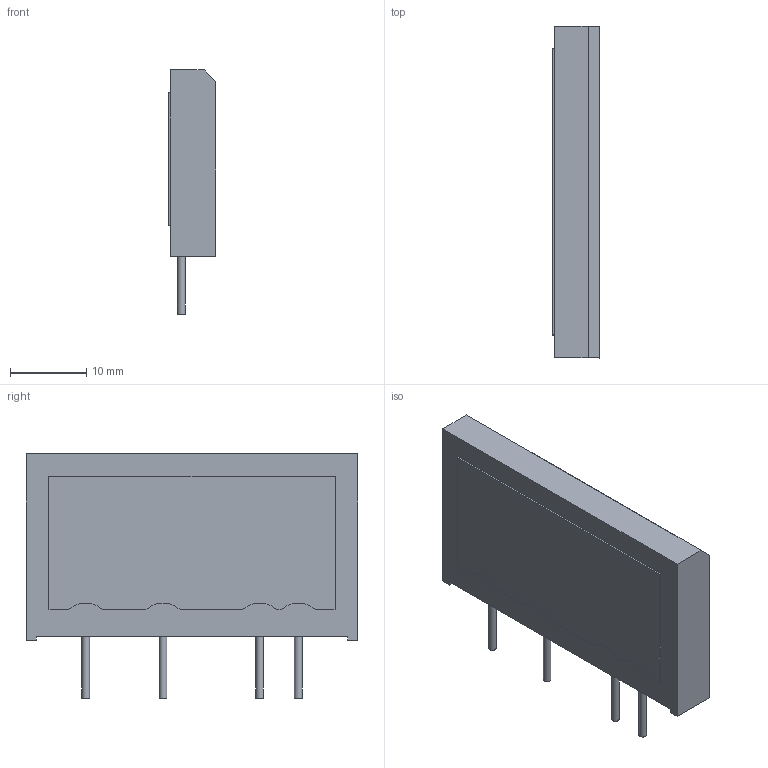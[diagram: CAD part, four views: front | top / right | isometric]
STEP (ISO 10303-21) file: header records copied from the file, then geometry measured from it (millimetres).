
FILE_DESCRIPTION((''),'2;1');
FILE_NAME('C:\Vault_local\Designs\Stock\3D pour clients\préparations\2D3D 500\2D3D 561 A.stp','2009-12-24T09:17:25',('Georges THOLLOT ','Responsible for','Methods and Industrialization',' Tl : +33 (0)4 77 53 90 27','gthollot@celduc.com'),('Celduc r e l a i s','5, rue Ampre, BP 30004','42290 SORBIERS - France','Fax. : +33 (0)4 77 53 85 51','N siret 353 310 519 00015','ISO 9001 N QUAL/1993/1106b','www.celduc.com'),'Autodesk Inventor 2010','Autodesk Inventor 2010','');
FILE_SCHEMA(('AUTOMOTIVE_DESIGN { 1 0 10303 214 1 1 1 1 }'));
Length unit declared in the file: millimetre
Products named in the file (1): SKL SKLD
Bounding box: 6.3 x 43.6 x 32.1 mm (x, y, z)
Volume: 6154.2 mm3; surface area: 3040.2 mm2
Topology: 1 solids, 1 shells, 41 faces, 103 edges, 70 vertices
Faces by surface type: plane 19, cylinder 12, bspline 10
Full cylindrical faces by diameter (mm): 1 x4
Entity records: 1338 total; most frequent: CARTESIAN_POINT 333, ORIENTED_EDGE 190, DIRECTION 183, EDGE_CURVE 95, VERTEX_POINT 66, VECTOR 63, LINE 63, AXIS2_PLACEMENT_3D 60
